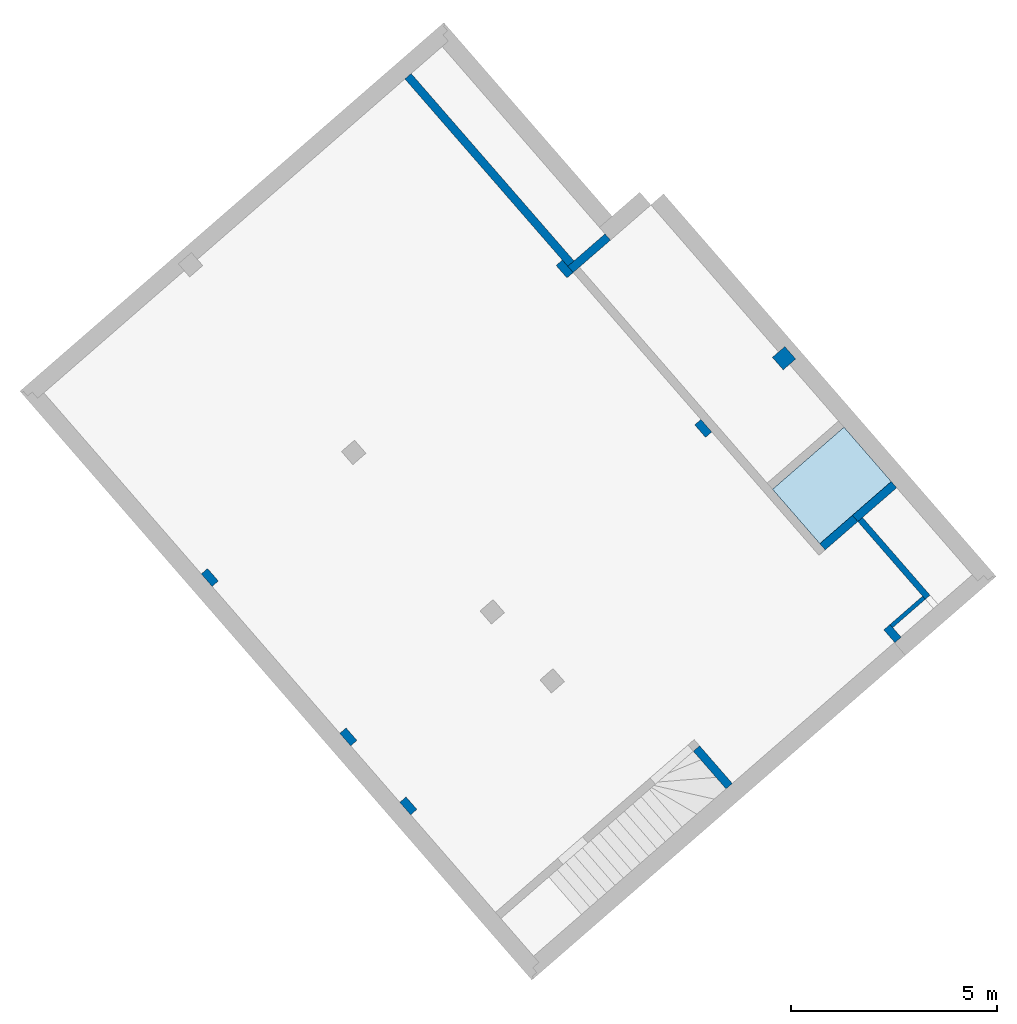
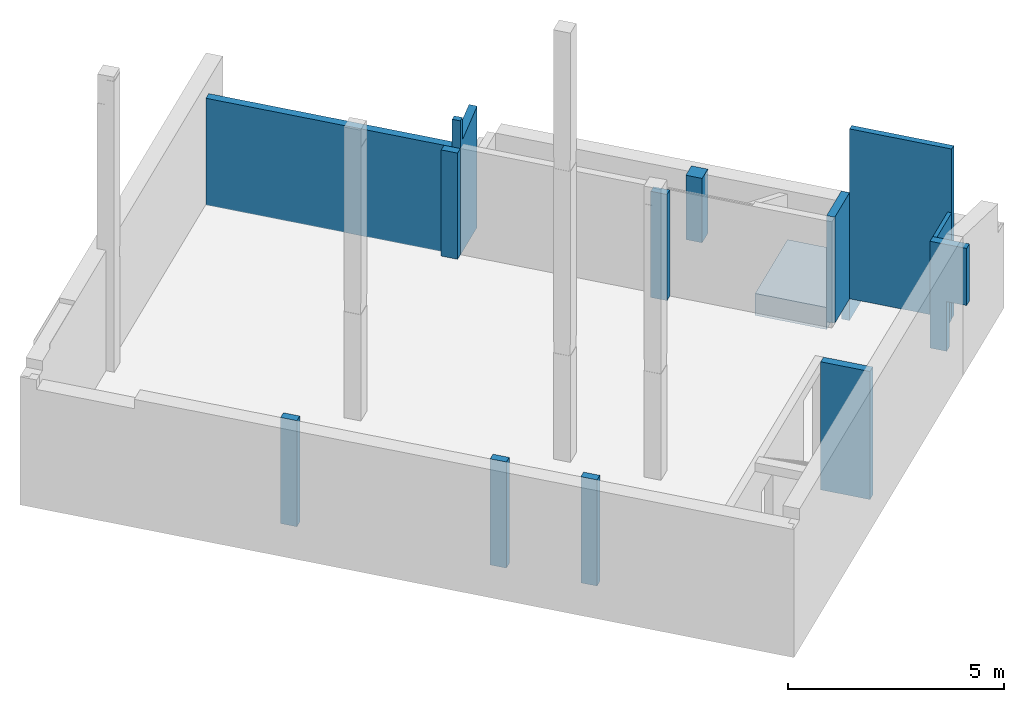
# One storey, part 1 of 4: 8 walls, 6 columns, 1 slab.
"""IFC2X3 building model written with IfcOpenShell, lengths in millimetres."""

from ifc_helpers import new_model, entity, si_unit, converted_unit, derived_unit, money_unit, direction, frame, origin_with_axes, place, context, subcontext, project, spatial, polyline, outline, extrude, faceted_brep, material, layer, layer_set, layer_usage, type_object, element, save


model = new_model("IFC2X3")

# Units and contexts
model_context = context("Model", 3, precision=1e-05, world=origin_with_axes(), true_north=direction((0.0, 1.0)))
body_context = subcontext(model_context, "Body", "Model", "MODEL_VIEW")
ifc_project = project(units=[si_unit("LENGTHUNIT", "METRE", prefix="MILLI"), si_unit("AREAUNIT", "SQUARE_METRE"), si_unit("VOLUMEUNIT", "CUBIC_METRE"), converted_unit("PLANEANGLEUNIT", "DEGREE", entity("IfcPlaneAngleMeasure", 0.0174532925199), si_unit("PLANEANGLEUNIT", "RADIAN"), dimensions=[0, 0, 0, 0, 0, 0, 0]), si_unit("SOLIDANGLEUNIT", "STERADIAN"), money_unit("EUR"), converted_unit("TIMEUNIT", "Year", entity("IfcTimeMeasure", 31556926.0), si_unit("TIMEUNIT", "SECOND"), dimensions=[0, 0, 1, 0, 0, 0, 0]), si_unit("MASSUNIT", "GRAM", prefix="KILO"), si_unit("THERMODYNAMICTEMPERATUREUNIT", "DEGREE_CELSIUS"), si_unit("LUMINOUSINTENSITYUNIT", "LUMEN"), si_unit("ENERGYUNIT", "JOULE", prefix="MEGA"), derived_unit("THERMALCONDUCTANCEUNIT", [(si_unit("POWERUNIT", "WATT"), 1), (si_unit("LENGTHUNIT", "METRE"), -1), (si_unit("THERMODYNAMICTEMPERATUREUNIT", "KELVIN"), -1)]), derived_unit("SPECIFICHEATCAPACITYUNIT", [(si_unit("ENERGYUNIT", "JOULE"), 1), (si_unit("MASSUNIT", "GRAM", prefix="KILO"), -1), (si_unit("THERMODYNAMICTEMPERATUREUNIT", "KELVIN"), -1)]), derived_unit("MASSDENSITYUNIT", [(si_unit("MASSUNIT", "GRAM", prefix="KILO"), 1), (si_unit("VOLUMEUNIT", "CUBIC_METRE"), -1)])], contexts=[model_context])

# Site, building, storey
site_placement = place(None, origin_with_axes())
site = spatial("IfcSite", under=ifc_project, at=site_placement, Name="Site", CompositionType="ELEMENT")
building_placement = place(site_placement, origin_with_axes())
building = spatial("IfcBuilding", under=site, at=building_placement, Name="Building", CompositionType="ELEMENT")
storey_placement = place(building_placement, frame((0.0, 0.0, -3415.0), z_axis=(0.0, 0.0, 1.0), x_axis=(1.0, 0.0, 0.0)))
storey = spatial("IfcBuildingStorey", under=building, at=storey_placement, Name="-1 korrus", CompositionType="ELEMENT", Elevation=-3415.0)

# Columns
ifc_material_1 = material(Name="Betoon - Konstuktsioon")
column_type = type_object("IfcColumnType", Name="Post", PredefinedType="NOTDEFINED")
for number, where, z_axis, x_axis in (
    (1, (136680.880527, 70430.9606252, 0.0), (0.0, 0.0, 1.0), (0.754709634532, 0.656058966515, 0.0)),
    (2, (140477.629479, 83470.2708862, 0.0), (0.0, 0.0, 1.0), (0.754709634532, 0.656058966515, 0.0)),
    (3, (143843.211456, 79598.6116734, 0.0), (0.0, 0.0, 1.0), (0.754709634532, 0.656058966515, 0.0)),
):
    element("IfcColumn", number, at=place(storey_placement, frame(where, z_axis=z_axis, x_axis=x_axis)), inside=storey, type_object=column_type, material=ifc_material_1, Name="Betoon - Konstuktsioon", ObjectType="Betoon - Konstuktsioon 200 x 400", context=body_context, shape_type="Brep", body=[
        faceted_brep([(-100.0, -200.0, 3000.0), (-100.0, -200.0, 0.0), (100.0, -200.0, 0.0), (100.0, -200.0, 3000.0), (-100.0, 200.0, 3000.0), (-100.0, 200.0, 0.0), (100.0, 200.0, 0.0), (100.0, 200.0, 3000.0)], [[[0, 1, 2, 3]], [[4, 5, 1, 0]], [[2, 1, 5, 6]], [[3, 2, 6, 7]], [[4, 0, 3, 7]], [[7, 6, 5, 4]]]),
    ])
column_placement = place(storey_placement, frame((145805.457175, 81304.3641637, -20.0), z_axis=(0.0, 0.0, 1.0), x_axis=(0.656059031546, -0.754709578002, 0.0)))
element("IfcColumn", 4, at=column_placement, inside=storey, type_object=column_type, material=ifc_material_1, Name="Betoon - Konstuktsioon", ObjectType="Betoon - Konstuktsioon 400 x 400", context=body_context, shape_type="Brep", body=[
    faceted_brep([(-200.0, -200.0, 1820.0), (-200.0, -200.0, 0.0), (200.0, -200.0, 0.0), (200.0, -200.0, 1820.0), (-200.0, 200.0, 1820.0), (-200.0, 200.0, 0.0), (200.0, 200.0, 0.0), (200.0, 200.0, 1820.0)], [[[0, 1, 2, 3]], [[4, 5, 1, 0]], [[2, 1, 5, 6]], [[3, 2, 6, 7]], [[4, 0, 3, 7]], [[7, 6, 5, 4]]]),
])
for number, where, z_axis, x_axis in (
    (5, (135224.275783, 72106.5924299, 0.0), (0.0, 0.0, 1.0), (0.754709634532, 0.656058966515, 0.0)),
    (6, (131858.846076, 75978.0768451, 0.0), (0.0, 0.0, 1.0), (0.754709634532, 0.656058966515, 0.0)),
):
    element("IfcColumn", number, at=place(storey_placement, frame(where, z_axis=z_axis, x_axis=x_axis)), inside=storey, type_object=column_type, material=ifc_material_1, Name="Betoon - Konstuktsioon", ObjectType="Betoon - Konstuktsioon 200 x 400", context=body_context, shape_type="Brep", body=[
        faceted_brep([(-100.0, -200.0, 3000.0), (-100.0, -200.0, 0.0), (100.0, -200.0, 0.0), (100.0, -200.0, 3000.0), (-100.0, 200.0, 3000.0), (-100.0, 200.0, 0.0), (100.0, 200.0, 0.0), (100.0, 200.0, 3000.0)], [[[0, 1, 2, 3]], [[4, 5, 1, 0]], [[2, 1, 5, 6]], [[3, 2, 6, 7]], [[4, 0, 3, 7]], [[7, 6, 5, 4]]]),
    ])

# Slab
ifc_material_2 = material(Name="Puit - Põrand")
ifc_layer_1 = layer(ifc_material_2, 20.0, ventilated="UNKNOWN")
ifc_material_3 = material(Name="Betoon")
ifc_layer_2 = layer(ifc_material_3, 200.0, ventilated="UNKNOWN")
ifc_material_4 = material(Name="Membraan - Veekindel")
ifc_layer_3 = layer(ifc_material_4, 0.0, ventilated="UNKNOWN")
ifc_material_5 = material(Name="Soojustus - Plastik Kõva")
ifc_layer_4 = layer(ifc_material_5, 100.0, ventilated="UNKNOWN")
ifc_material_6 = material(Name="Radoonitõkke kile")
ifc_layer_5 = layer(ifc_material_6, 0.0, ventilated="UNKNOWN")
ifc_layer_6 = layer(ifc_material_5, 100.0, ventilated="UNKNOWN")
ifc_material_7 = material(Name="Killustik")
ifc_layer_7 = layer(ifc_material_7, 200.0, ventilated="UNKNOWN")
ifc_layer_8 = layer(ifc_material_4, 0.0, ventilated="UNKNOWN")
ifc_layer_set = layer_set([ifc_layer_1, ifc_layer_2, ifc_layer_3, ifc_layer_4, ifc_layer_5, ifc_layer_6, ifc_layer_7, ifc_layer_8], Name="PP-01")
ifc_layer_usage = layer_usage(ifc_layer_set, "AXIS3", "NEGATIVE", 620.0)
slab_type = type_object("IfcSlabType", Name="PP-01", PredefinedType="FLOOR")
slab_placement = place(storey_placement, frame((145526.076215, 78119.9730958, 400.0), z_axis=(0.0, 0.0, 1.0), x_axis=(1.0, 0.0, 0.0)))
element("IfcSlab", 7, at=slab_placement, inside=storey, type_object=slab_type, material=ifc_layer_usage, Name="PP-01", PredefinedType="FLOOR", context=body_context, shape_type="SweptSolid", body=[
    extrude(outline(polyline([(0.0, 0.0), (1148.10324014, -1320.74169503), (2883.93472467, 188.194712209), (1735.83198128, 1508.93583536), (0.0, 0.0)])), frame((0.0, 0.0, -620.0), z_axis=(0.0, 0.0, 1.0), x_axis=(1.0, 0.0, 0.0)), (0.0, 0.0, 1.0), 620.0),
])

# Walls
ifc_material_8 = material(Name="Raudbetoon - Konstruktsioon")
wall_type_1 = type_object("IfcWallType", Name="SS-12", PredefinedType="NOTDEFINED")
wall_1_placement = place(storey_placement, frame((147466.624519, 77488.0933795, 0.0), z_axis=(0.0, 0.0, 1.0), x_axis=(-0.754709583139, -0.656059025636, 0.0)))
element("IfcWall", 8, at=wall_1_placement, inside=storey, type_object=wall_type_1, material=ifc_material_8, Name="SS-12", context=body_context, shape_type="Brep", body=[
    faceted_brep([(0.0, 200.0, 0.0), (1050.00000267, 200.0, 0.0), (1050.00000267, 0.0, 0.0), (0.0, 0.0, 0.0), (0.0, 200.0, 3000.0), (1050.00000267, 200.0, 3000.0), (1050.00000267, 0.0, 3000.0), (0.0, 0.0, 3000.0)], [[[0, 1, 2, 3]], [[4, 5, 1, 0]], [[6, 2, 1, 5]], [[3, 2, 6, 7]], [[7, 4, 0, 3]], [[7, 6, 5, 4]]]),
])
wall_2_placement = place(storey_placement, frame((148410.010939, 78308.167808, -620.0), z_axis=(0.0, 0.0, 1.0), x_axis=(-0.754709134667, -0.656059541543, 0.0)))
element("IfcWall", 9, at=wall_2_placement, inside=storey, type_object=wall_type_1, material=ifc_material_8, Name="SS-12", context=body_context, shape_type="Brep", body=[
    faceted_brep([(0.0, 200.0, 0.0), (0.000135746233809, 200.0, 2400.0), (0.000135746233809, 200.0, 2420.0), (1250.0000025, 200.0, 2420.0), (1250.0000025, 200.0, 0.0), (0.0, 0.0, 0.0), (0.0, 0.0, 2400.0), (0.0, 0.0, 2420.0), (1250.0000025, 0.0, 2420.0), (1250.0000025, 0.0, 0.0)], [[[0, 1, 2, 3, 4]], [[5, 6, 7, 2, 1, 0]], [[3, 2, 7, 8]], [[3, 8, 9, 4]], [[4, 9, 5, 0]], [[8, 7, 6, 5, 9]]]),
])
wall_3_placement = place(storey_placement, frame((140553.100407, 83535.8768001, -20.0), z_axis=(0.0, 0.0, 1.0), x_axis=(0.754709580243, 0.656059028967, 0.0)))
element("IfcWall", 10, at=wall_3_placement, inside=storey, type_object=wall_type_1, material=ifc_material_8, Name="SS-12", context=body_context, shape_type="Brep", body=[
    faceted_brep([(1199.99996739, 0.0, 3424.10082903), (1199.99996739, -200.0, 3424.10083154), (1199.99996739, -200.0, 0.0), (1199.99996739, 0.0, 0.0), (146.150192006, -200.0, 3164.4961917), (146.150193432, 0.0, 3164.49618954), (146.150192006, -200.0, 3800.0), (0.0, -200.0, 3800.0), (0.0, -200.0, 0.0), (0.0, 0.0, 0.0), (0.0, 0.0, 3800.0), (146.150193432, 0.0, 3800.0)], [[[0, 1, 2, 3]], [[4, 1, 0, 5]], [[4, 6, 7, 8, 2, 1]], [[8, 9, 3, 2]], [[5, 0, 3, 9, 10, 11]], [[11, 6, 4, 5]], [[6, 11, 10, 7]], [[9, 8, 7, 10]]]),
])
wall_4_placement = place(storey_placement, frame((140553.100407, 83535.8768001, -20.0), z_axis=(0.0, 0.0, 1.0), x_axis=(-0.65605902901, 0.754709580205, 0.0)))
element("IfcWall", 11, at=wall_4_placement, inside=storey, type_object=wall_type_1, material=ifc_material_8, Name="SS-12", context=body_context, shape_type="Brep", body=[
    faceted_brep([(0.0, -200.0, 3020.0), (6029.99999805, -200.0, 3020.0), (6029.99999805, 0.0, 3020.0), (0.0, 0.0, 3020.0), (0.0, -200.0, 0.0), (6029.99999805, -200.0, 0.0), (6029.99999805, 0.0, 0.0), (0.0, 0.0, 0.0)], [[[0, 1, 2, 3]], [[4, 5, 1, 0]], [[2, 1, 5, 6]], [[3, 2, 6, 7]], [[4, 0, 3, 7]], [[7, 6, 5, 4]]]),
])
wall_5_placement = place(storey_placement, frame((148648.91714, 74527.5555663, -20.0), z_axis=(0.0, 0.0, 1.0), x_axis=(-0.656059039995, 0.754709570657, 0.0)))
element("IfcWall", 12, at=wall_5_placement, inside=storey, type_object=wall_type_1, material=ifc_material_8, Name="SS-12", context=body_context, shape_type="Brep", body=[
    faceted_brep([(-486.999997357, 200.0, 3020.0), (-486.999997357, 200.0, 1405.0), (-486.999999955, 0.0, 1405.0), (-486.999999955, 0.0, 3020.0), (0.0, 200.0, 0.0), (0.0, 200.0, 1405.0), (409.992822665, 200.0, 3020.0), (409.992822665, 200.0, 0.0), (0.0, 0.0, 1405.0), (0.0, 0.0, 0.0), (409.992819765, 0.0, 0.0), (409.992819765, 0.0, 3020.0)], [[[0, 1, 2, 3]], [[4, 5, 1, 0, 6, 7]], [[5, 8, 2, 1]], [[2, 8, 9, 10, 11, 3]], [[6, 0, 3, 11]], [[4, 9, 8, 5]], [[11, 10, 7, 6]], [[10, 9, 4, 7]]]),
])
wall_6_placement = place(storey_placement, frame((143754.226279, 71889.1803309, -620.0), z_axis=(0.0, 0.0, 1.0), x_axis=(0.65605902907, -0.754709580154, 0.0)))
element("IfcWall", 13, at=wall_6_placement, inside=storey, type_object=wall_type_1, material=ifc_material_8, Name="SS-12", context=body_context, shape_type="Brep", body=[
    faceted_brep([(-1.14126663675e-06, -200.0, 3620.0), (1210.00295228, -200.0, 3620.0), (1210.00295228, 0.0, 3620.0), (0.0, 0.0, 3620.0), (-1.14126663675e-06, -200.0, 0.0), (1210.00295228, -200.0, 0.0), (1210.00295228, 0.0, 0.0), (0.0, 0.0, 0.0)], [[[0, 1, 2, 3]], [[4, 5, 1, 0]], [[2, 1, 5, 6]], [[3, 2, 6, 7]], [[4, 0, 3, 7]], [[7, 6, 5, 4]]]),
])
ifc_material_9 = material(Name="Müüriplokk - Konstuktsioon")
wall_type_2 = type_object("IfcWallType", Name="SS-09", PredefinedType="NOTDEFINED")
wall_7_placement = place(storey_placement, frame((148445.543548, 74761.5101142, -20.0), z_axis=(0.0, 0.0, 1.0), x_axis=(0.754709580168, 0.656059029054, 0.0)))
element("IfcWall", 14, at=wall_7_placement, inside=storey, type_object=wall_type_2, material=ifc_material_9, Name="SS-09", context=body_context, shape_type="Brep", body=[
    faceted_brep([(1049.96442225, 0.0, 0.0), (1049.96442225, 0.0, 20.0), (1049.96442225, 0.0, 3020.0), (0.0, 0.0, 3020.0), (0.0, 0.0, 0.0), (1049.96442519, 100.0, 0.0), (1049.96442225, 100.0, 3020.0), (-1.44976297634e-06, 100.0, 3020.0), (-1.44976297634e-06, 100.0, 0.0)], [[[0, 1, 2, 3, 4]], [[5, 6, 2, 1, 0]], [[3, 2, 6, 7]], [[7, 8, 4, 3]], [[8, 5, 0, 4]], [[7, 6, 5, 8]]]),
])
wall_type_3 = type_object("IfcWallType", Name="SS-06", PredefinedType="NOTDEFINED")
wall_8_placement = place(storey_placement, frame((149237.961756, 75450.3487536, 0.0), z_axis=(0.0, 0.0, 1.0), x_axis=(-0.656059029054, 0.754709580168, 0.0)))
element("IfcWall", 15, at=wall_8_placement, inside=storey, type_object=wall_type_3, material=ifc_material_9, Name="SS-06", context=body_context, shape_type="Brep", body=[
    faceted_brep([(2500.0065453, 0.0, 4800.0), (0.0, 0.0, 4800.0), (0.0, -150.0, 4800.0), (2500.0065453, -150.0, 4800.0), (2500.0065453, 0.0, 0.0), (0.0, 0.0, 0.0), (0.0, -150.0, 0.0), (2500.0065453, -150.0, 0.0)], [[[0, 1, 2, 3]], [[4, 5, 1, 0]], [[1, 5, 6, 2]], [[3, 2, 6, 7]], [[7, 4, 0, 3]], [[7, 6, 5, 4]]]),
])

save(model, "model.ifc")
